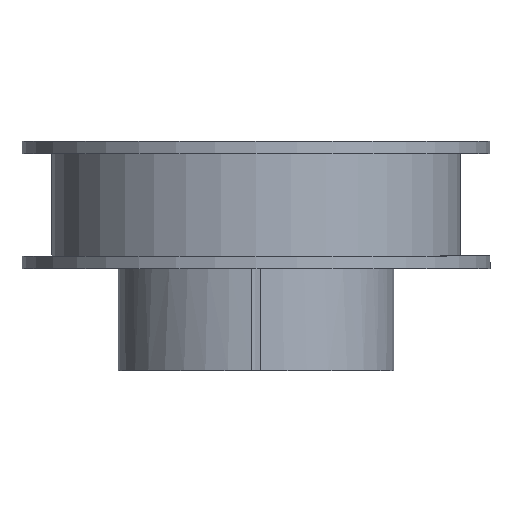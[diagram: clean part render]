
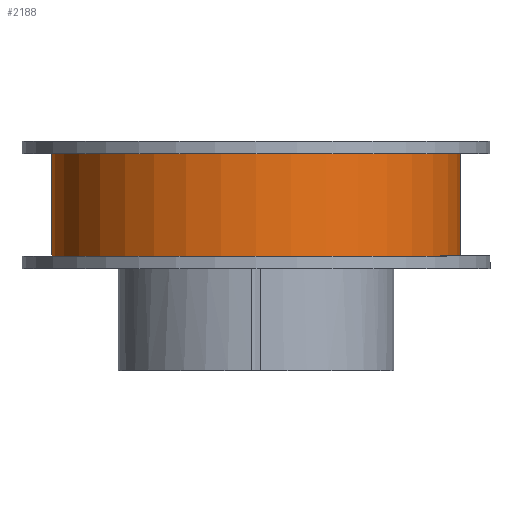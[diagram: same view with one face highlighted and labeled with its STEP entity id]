
A CAD part, front view. The second image highlights one B-rep face of the part: STEP entity #2188.
In plain terms, the highlighted cylindrical face has radius 24 mm (diameter 48 mm), a full revolution.
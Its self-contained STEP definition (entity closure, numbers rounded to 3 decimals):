
#2157=CARTESIAN_POINT('',(0.0,-24.,-6.));
#2158=VERTEX_POINT('',#2157);
#2159=CARTESIAN_POINT('',(0.0,0.0,-6.));
#2160=DIRECTION('',(0.0,0.0,-1.0));
#2161=DIRECTION('',(0.0,-1.0,0.0));
#2162=AXIS2_PLACEMENT_3D('',#2159,#2160,#2161);
#2163=CIRCLE('',#2162,24.);
#2164=EDGE_CURVE('',#2158,#2158,#2163,.T.);
#2169=CARTESIAN_POINT('',(0.0,0.0,0.0));
#2170=DIRECTION('',(0.0,0.0,-1.0));
#2171=DIRECTION('',(0.0,-1.0,0.0));
#2172=AXIS2_PLACEMENT_3D('',#2169,#2170,#2171);
#2173=CYLINDRICAL_SURFACE('',#2172,24.);
#2174=CARTESIAN_POINT('',(0.0,-24.,6.));
#2175=VERTEX_POINT('',#2174);
#2176=CARTESIAN_POINT('',(0.0,0.0,6.));
#2177=DIRECTION('',(0.0,0.0,-1.0));
#2178=DIRECTION('',(0.0,-1.0,0.0));
#2179=AXIS2_PLACEMENT_3D('',#2176,#2177,#2178);
#2180=CIRCLE('',#2179,24.);
#2181=EDGE_CURVE('',#2175,#2175,#2180,.T.);
#2182=ORIENTED_EDGE('',*,*,#2181,.T.);
#2183=EDGE_LOOP('',(#2182));
#2184=FACE_OUTER_BOUND('',#2183,.T.);
#2185=ORIENTED_EDGE('',*,*,#2164,.F.);
#2186=EDGE_LOOP('',(#2185));
#2187=FACE_BOUND('',#2186,.T.);
#2188=ADVANCED_FACE('',(#2184,#2187),#2173,.T.);
